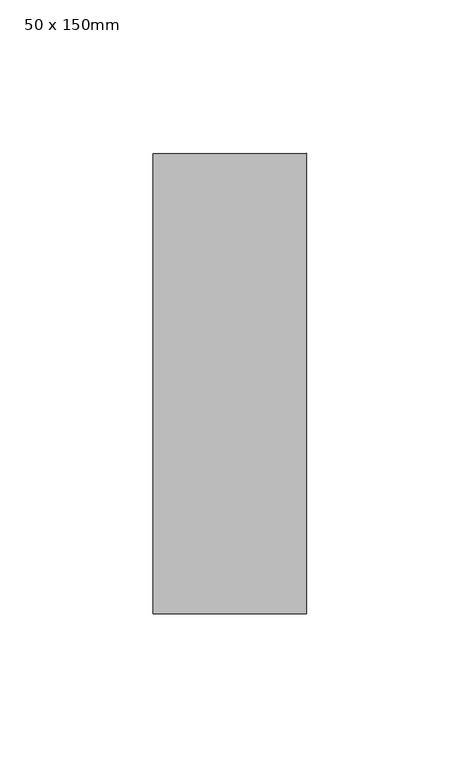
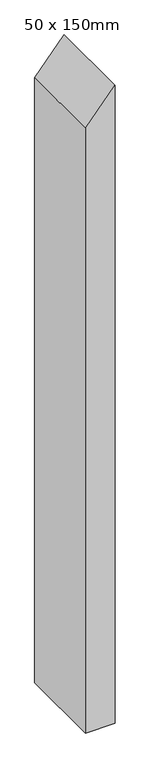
"""IFC4 building model written with IfcOpenShell, lengths in millimetres: member geometry, 矩形豎框 : 50 x 150mm."""

from ifc_helpers import new_model, si_unit, frame, origin, place, context, project, spatial, polyline, outline, extrude, source, transform, mapped, element, save


def member_50_x_150mm_b8228058(model_context):
    return source(origin(), model_context, "Body", "SweptSolid", [
        extrude(outline(polyline([(0.0, 0.0), (-59.5876796, -50.0), (-1147.6738463, -50.0), (-1147.6738463, 0.0), (0.0, 0.0)])), frame((0.0, -75.0, 0.0), z_axis=(0.0, 1.0, 0.0), x_axis=(0.0, 0.0, 1.0)), (0.0, 0.0, 1.0), 150.0),
    ])


if __name__ == "__main__":
    model = new_model("IFC4")
    model_context = context("Model", 3, world=origin())
    ifc_project = project(units=[si_unit("LENGTHUNIT", "METRE", prefix="MILLI")], contexts=[model_context])
    site = spatial("IfcSite", under=ifc_project)
    building = spatial("IfcBuilding", under=site)
    placement = place(None, origin())
    member_50_x_150mm_shape = member_50_x_150mm_b8228058(model_context)
    element("IfcMember", 1, ObjectType="矩形豎框 : 50 x 150mm", at=placement, inside=building, context=model_context, shape_type="MappedRepresentation", body=[
        mapped(member_50_x_150mm_shape, transform((0.0, 0.0, 0.0), x_axis=(1.0, 0.0, 0.0), y_axis=(0.0, 1.0, 0.0), z_axis=(0.0, 0.0, 1.0))),
    ])
    save(model, "model.ifc")
